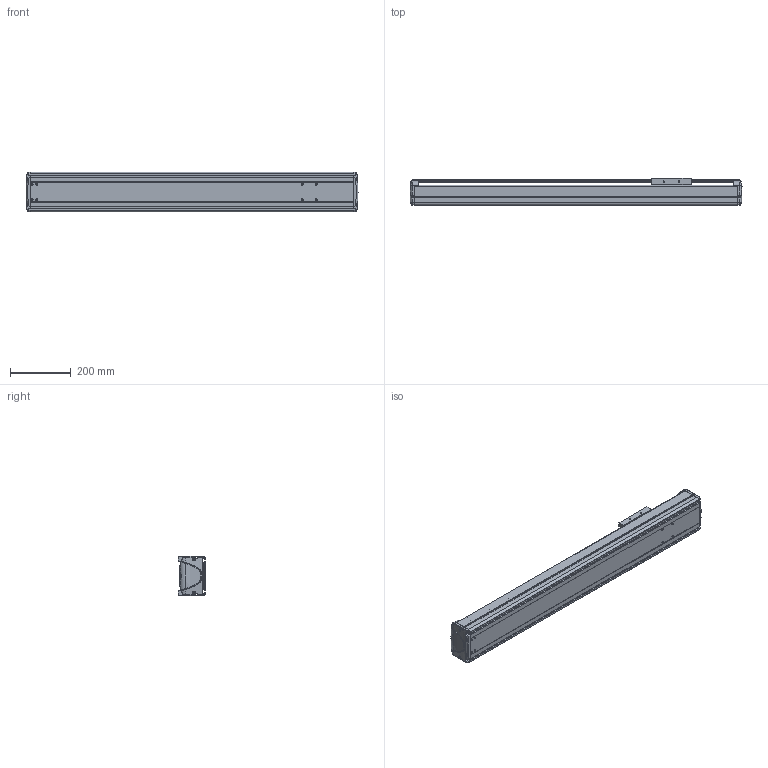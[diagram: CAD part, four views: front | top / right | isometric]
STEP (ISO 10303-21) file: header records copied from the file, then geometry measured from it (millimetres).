
FILE_DESCRIPTION((''),'2;1');
FILE_NAME('BE30E-ST-M_N-75_IGS_PRT','2017-06-17T',(' '),(''),'PRO/ENGINEER BY PARAMETRIC TECHNOLOGY CORPORATION, 2015030','PRO/ENGINEER BY PARAMETRIC TECHNOLOGY CORPORATION, 2015030','');
FILE_SCHEMA(('CONFIG_CONTROL_DESIGN'));
Length unit declared in the file: millimetre
Products named in the file (1): BE30E-ST-M_N-75_IGS_PRT
Bounding box: 1090 x 89.8 x 130 mm (x, y, z)
Volume: 3323409.9 mm3; surface area: 1315044.1 mm2
Topology: 3 solids, 84 shells, 1346 faces, 3609 edges, 2359 vertices
Faces by surface type: cylinder 607, plane 586, bspline 55, torus 42, cone 32, sphere 24
Entity records: 45140 total; most frequent: CARTESIAN_POINT 11332, DIRECTION 6974, ORIENTED_EDGE 6856, EDGE_CURVE 3589, AXIS2_PLACEMENT_3D 2522, VERTEX_POINT 2359, VECTOR 1930, LINE 1930
